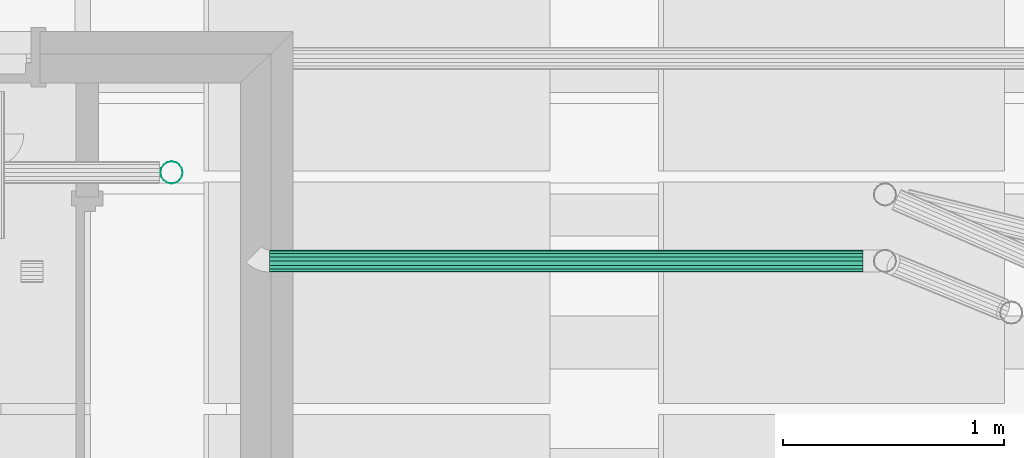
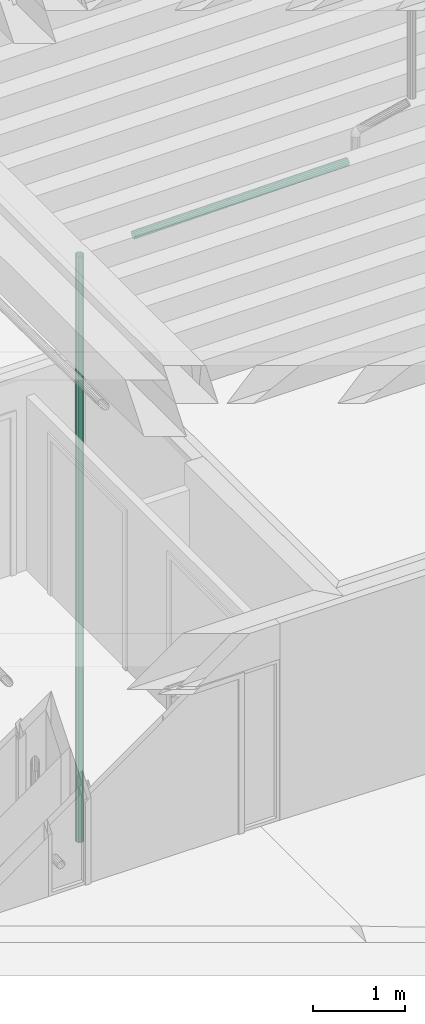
# One storey, part 64 of 106: 2 flow segments.
"""IFC2X3 building model written with IfcOpenShell, lengths in metres."""

from ifc_helpers import new_model, entity, si_unit, converted_unit, derived_unit, money_unit, direction, frame, origin_with_axes, place, context, subcontext, project, spatial, faceted_brep, material, type_object, element, save


model = new_model("IFC2X3")

# Units and contexts
model_context = context("Model", 3, precision=1e-05, world=origin_with_axes(), true_north=direction((0.0, 1.0)))
body_context = subcontext(model_context, "Body", "Model", "MODEL_VIEW", scale=1.0)
ifc_project = project(units=[si_unit("LENGTHUNIT", "METRE"), si_unit("AREAUNIT", "SQUARE_METRE"), si_unit("VOLUMEUNIT", "CUBIC_METRE"), si_unit("ABSORBEDDOSEUNIT", "GRAY"), si_unit("AMOUNTOFSUBSTANCEUNIT", "MOLE"), si_unit("DOSEEQUIVALENTUNIT", "SIEVERT"), si_unit("ELECTRICCAPACITANCEUNIT", "FARAD"), si_unit("ELECTRICCHARGEUNIT", "COULOMB"), si_unit("ELECTRICCONDUCTANCEUNIT", "SIEMENS"), si_unit("ELECTRICCURRENTUNIT", "AMPERE"), si_unit("ELECTRICRESISTANCEUNIT", "OHM"), si_unit("ELECTRICVOLTAGEUNIT", "VOLT"), si_unit("ENERGYUNIT", "JOULE"), si_unit("FORCEUNIT", "NEWTON"), si_unit("FREQUENCYUNIT", "HERTZ"), si_unit("ILLUMINANCEUNIT", "LUX"), si_unit("INDUCTANCEUNIT", "HENRY"), si_unit("LUMINOUSFLUXUNIT", "LUMEN"), si_unit("LUMINOUSINTENSITYUNIT", "CANDELA"), si_unit("MAGNETICFLUXDENSITYUNIT", "TESLA"), si_unit("MAGNETICFLUXUNIT", "WEBER"), si_unit("MASSUNIT", "GRAM"), converted_unit("PLANEANGLEUNIT", "degree", entity("IfcReal", 0.0174532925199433), si_unit("PLANEANGLEUNIT", "RADIAN"), dimensions=[0, 0, 0, 0, 0, 0, 0]), si_unit("POWERUNIT", "WATT"), si_unit("PRESSUREUNIT", "PASCAL"), si_unit("RADIOACTIVITYUNIT", "BECQUEREL"), si_unit("SOLIDANGLEUNIT", "STERADIAN"), si_unit("THERMODYNAMICTEMPERATUREUNIT", "KELVIN"), si_unit("TIMEUNIT", "SECOND"), derived_unit("ACCELERATIONUNIT", [(si_unit("LENGTHUNIT", "METRE"), 1), (si_unit("TIMEUNIT", "SECOND"), -2)]), derived_unit("ANGULARVELOCITYUNIT", [(converted_unit("PLANEANGLEUNIT", "degree", entity("IfcReal", 0.0174532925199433), si_unit("PLANEANGLEUNIT", "RADIAN"), dimensions=[0, 0, 0, 0, 0, 0, 0]), 1), (si_unit("TIMEUNIT", "SECOND"), -1)]), derived_unit("CURVATUREUNIT", [(converted_unit("PLANEANGLEUNIT", "degree", entity("IfcReal", 0.0174532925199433), si_unit("PLANEANGLEUNIT", "RADIAN"), dimensions=[0, 0, 0, 0, 0, 0, 0]), 1), (si_unit("LENGTHUNIT", "METRE"), -1)]), derived_unit("DYNAMICVISCOSITYUNIT", [(si_unit("PRESSUREUNIT", "PASCAL"), 1), (si_unit("TIMEUNIT", "SECOND"), 1)]), derived_unit("HEATFLUXDENSITYUNIT", [(si_unit("POWERUNIT", "WATT"), 1), (si_unit("LENGTHUNIT", "METRE"), -2)]), derived_unit("HEATINGVALUEUNIT", [(si_unit("ENERGYUNIT", "JOULE"), 1), (si_unit("MASSUNIT", "GRAM"), -1)]), derived_unit("INTEGERCOUNTRATEUNIT", [(si_unit("TIMEUNIT", "SECOND"), -1)]), derived_unit("IONCONCENTRATIONUNIT", [(si_unit("MASSUNIT", "GRAM"), 1), (si_unit("VOLUMEUNIT", "CUBIC_METRE"), -1)]), derived_unit("ISOTHERMALMOISTURECAPACITYUNIT", [(si_unit("VOLUMEUNIT", "CUBIC_METRE"), 1), (si_unit("MASSUNIT", "GRAM"), -1)]), derived_unit("KINEMATICVISCOSITYUNIT", [(si_unit("AREAUNIT", "SQUARE_METRE"), 1), (si_unit("TIMEUNIT", "SECOND"), -1)]), derived_unit("LINEARFORCEUNIT", [(si_unit("FORCEUNIT", "NEWTON"), 1), (si_unit("LENGTHUNIT", "METRE"), -1)]), derived_unit("LINEARMOMENTUNIT", [(si_unit("FORCEUNIT", "NEWTON"), 1), (si_unit("LENGTHUNIT", "METRE"), -1)]), derived_unit("LINEARSTIFFNESSUNIT", [(si_unit("FORCEUNIT", "NEWTON"), 1), (si_unit("LENGTHUNIT", "METRE"), -1)]), derived_unit("LINEARVELOCITYUNIT", [(si_unit("LENGTHUNIT", "METRE"), 1), (si_unit("TIMEUNIT", "SECOND"), -1)]), derived_unit("LUMINOUSINTENSITYDISTRIBUTIONUNIT", [(si_unit("LUMINOUSINTENSITYUNIT", "CANDELA"), 1), (si_unit("LUMINOUSFLUXUNIT", "LUMEN"), -1)]), derived_unit("MASSDENSITYUNIT", [(si_unit("MASSUNIT", "GRAM"), 1), (si_unit("VOLUMEUNIT", "CUBIC_METRE"), -1)]), derived_unit("MASSFLOWRATEUNIT", [(si_unit("MASSUNIT", "GRAM"), 1), (si_unit("TIMEUNIT", "SECOND"), -1)]), derived_unit("MASSPERLENGTHUNIT", [(si_unit("MASSUNIT", "GRAM"), 1), (si_unit("LENGTHUNIT", "METRE"), -1)]), derived_unit("MODULUSOFELASTICITYUNIT", [(si_unit("FORCEUNIT", "NEWTON"), 1), (si_unit("AREAUNIT", "SQUARE_METRE"), -1)]), derived_unit("MODULUSOFLINEARSUBGRADEREACTIONUNIT", [(si_unit("FORCEUNIT", "NEWTON"), 1), (si_unit("LENGTHUNIT", "METRE"), -2)]), derived_unit("MODULUSOFROTATIONALSUBGRADEREACTIONUNIT", [(si_unit("FORCEUNIT", "NEWTON"), 1), (si_unit("LENGTHUNIT", "METRE"), 1)]), derived_unit("MODULUSOFSUBGRADEREACTIONUNIT", [(si_unit("FORCEUNIT", "NEWTON"), 1), (si_unit("VOLUMEUNIT", "CUBIC_METRE"), -1)]), derived_unit("MOISTUREDIFFUSIVITYUNIT", [(si_unit("VOLUMEUNIT", "CUBIC_METRE"), 1), (si_unit("TIMEUNIT", "SECOND"), -1)]), derived_unit("MOLECULARWEIGHTUNIT", [(si_unit("MASSUNIT", "GRAM"), 1), (si_unit("AMOUNTOFSUBSTANCEUNIT", "MOLE"), -1)]), derived_unit("PLANARFORCEUNIT", [(si_unit("FORCEUNIT", "NEWTON"), 1), (si_unit("LENGTHUNIT", "METRE"), -2)]), derived_unit("ROTATIONALFREQUENCYUNIT", [(si_unit("TIMEUNIT", "SECOND"), -1)]), derived_unit("ROTATIONALMASSUNIT", [(si_unit("MASSUNIT", "GRAM"), 1), (si_unit("LENGTHUNIT", "METRE"), 2)]), derived_unit("ROTATIONALSTIFFNESSUNIT", [(si_unit("FORCEUNIT", "NEWTON"), 1), (si_unit("LENGTHUNIT", "METRE"), 1), (converted_unit("PLANEANGLEUNIT", "degree", entity("IfcReal", 0.0174532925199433), si_unit("PLANEANGLEUNIT", "RADIAN"), dimensions=[0, 0, 0, 0, 0, 0, 0]), -1)]), derived_unit("SECTIONAREAINTEGRALUNIT", [(si_unit("LENGTHUNIT", "METRE"), 5)]), derived_unit("SECTIONMODULUSUNIT", [(si_unit("LENGTHUNIT", "METRE"), 3)]), derived_unit("SHEARMODULUSUNIT", [(si_unit("FORCEUNIT", "NEWTON"), 1), (si_unit("AREAUNIT", "SQUARE_METRE"), -1)]), derived_unit("SOUNDPOWERUNIT", [(si_unit("ENERGYUNIT", "JOULE"), 1), (si_unit("TIMEUNIT", "SECOND"), -1)]), derived_unit("SPECIFICHEATCAPACITYUNIT", [(si_unit("FORCEUNIT", "NEWTON"), 1), (si_unit("MASSUNIT", "GRAM"), -1), (si_unit("THERMODYNAMICTEMPERATUREUNIT", "KELVIN"), -1)]), derived_unit("TEMPERATUREGRADIENTUNIT", [(si_unit("THERMODYNAMICTEMPERATUREUNIT", "KELVIN"), 1), (si_unit("LENGTHUNIT", "METRE"), -1)]), derived_unit("THERMALADMITTANCEUNIT", [(si_unit("POWERUNIT", "WATT"), 1), (si_unit("AREAUNIT", "SQUARE_METRE"), -1), (si_unit("THERMODYNAMICTEMPERATUREUNIT", "KELVIN"), -1)]), derived_unit("THERMALCONDUCTANCEUNIT", [(si_unit("POWERUNIT", "WATT"), 1), (si_unit("LENGTHUNIT", "METRE"), -1), (si_unit("THERMODYNAMICTEMPERATUREUNIT", "KELVIN"), -1)]), derived_unit("THERMALEXPANSIONCOEFFICIENTUNIT", [(si_unit("THERMODYNAMICTEMPERATUREUNIT", "KELVIN"), -1)]), derived_unit("THERMALRESISTANCEUNIT", [(si_unit("AREAUNIT", "SQUARE_METRE"), 1), (si_unit("POWERUNIT", "WATT"), -1)]), derived_unit("THERMALTRANSMITTANCEUNIT", [(si_unit("POWERUNIT", "WATT"), 1), (si_unit("AREAUNIT", "SQUARE_METRE"), -1), (si_unit("THERMODYNAMICTEMPERATUREUNIT", "KELVIN"), -1)]), derived_unit("TORQUEUNIT", [(si_unit("FORCEUNIT", "NEWTON"), 1), (si_unit("LENGTHUNIT", "METRE"), 1)]), derived_unit("VAPORPERMEABILITYUNIT", [(si_unit("MASSUNIT", "GRAM"), 1), (si_unit("TIMEUNIT", "SECOND"), -1)]), derived_unit("VOLUMETRICFLOWRATEUNIT", [(si_unit("VOLUMEUNIT", "CUBIC_METRE"), 1), (si_unit("TIMEUNIT", "SECOND"), -1)]), derived_unit("WARPINGCONSTANTUNIT", [(si_unit("LENGTHUNIT", "METRE"), 6)]), derived_unit("WARPINGMOMENTUNIT", [(si_unit("FORCEUNIT", "NEWTON"), 1), (si_unit("LENGTHUNIT", "METRE"), 2)]), money_unit("GBP")], contexts=[model_context])

# Site, building, storey
site_placement = place(None, origin_with_axes())
site = spatial("IfcSite", under=ifc_project, at=site_placement, Name="Site", CompositionType="ELEMENT")
building_placement = place(site_placement, origin_with_axes())
building = spatial("IfcBuilding", under=site, at=building_placement, Name="Building01", CompositionType="ELEMENT")
storey_placement = place(building_placement, origin_with_axes())
storey = spatial("IfcBuildingStorey", under=building, at=storey_placement, Name="GF", CompositionType="ELEMENT", Elevation=0.0)

# Flow segments
ifc_material = material(Name="M_BSUK_ColdWater")
pipe_segment_type = type_object("IfcPipeSegmentType", Name="M-BmpStraightpipe-DefaultPipe", PredefinedType="RIGIDSEGMENT")
flow_segment_1_placement = place(storey_placement, frame((21.977911, 8.116912, 4.65154), z_axis=(-0.01249902, 0.0, 0.99992188), x_axis=(-0.99992188, 0.0, -0.01249902)))
element("IfcFlowSegment", 1, at=flow_segment_1_placement, inside=storey, type_object=pipe_segment_type, material=ifc_material, Name="M-BmpStraightpipe-DefaultPipe", ObjectType="M-BmpStraightpipe-DefaultPipe", context=body_context, shape_type="Brep", body=[
    faceted_brep([(2.68217, 0.0, -0.05), (0.0, 0.0, -0.05), (0.0, 0.019134, -0.046194), (2.68217, 0.019134, -0.046194), (0.0, 0.035355, -0.035355), (2.68217, 0.035355, -0.035355), (0.0, 0.046194, -0.019134), (2.68217, 0.046194, -0.019134), (0.0, 0.05, 0.0), (2.68217, 0.05, 0.0), (0.0, 0.046194, 0.019134), (2.68217, 0.046194, 0.019134), (0.0, 0.035355, 0.035355), (2.68217, 0.035355, 0.035355), (0.0, 0.019134, 0.046194), (2.68217, 0.019134, 0.046194), (0.0, 0.0, 0.05), (2.68217, 0.0, 0.05), (0.0, -0.019134, 0.046194), (2.68217, -0.019134, 0.046194), (0.0, -0.035355, 0.035355), (2.68217, -0.035355, 0.035355), (0.0, -0.046194, 0.019134), (2.68217, -0.046194, 0.019134), (0.0, -0.05, 0.0), (2.68217, -0.05, 0.0), (0.0, -0.046194, -0.019134), (2.68217, -0.046194, -0.019134), (0.0, -0.035355, -0.035355), (2.68217, -0.035355, -0.035355), (0.0, -0.019134, -0.046194), (2.68217, -0.019134, -0.046194)], [[[0, 1, 2, 3]], [[3, 2, 4, 5]], [[5, 4, 6, 7]], [[7, 6, 8, 9]], [[9, 8, 10, 11]], [[11, 10, 12, 13]], [[13, 12, 14, 15]], [[15, 14, 16, 17]], [[17, 16, 18, 19]], [[19, 18, 20, 21]], [[21, 20, 22, 23]], [[23, 22, 24, 25]], [[25, 24, 26, 27]], [[27, 26, 28, 29]], [[29, 28, 30, 31]], [[31, 30, 1, 0]]]),
])
flow_segment_2_placement = place(storey_placement, frame((18.854537, 8.516912, -3.480655), z_axis=(1.0, 0.0, 0.0), x_axis=(0.0, 0.0, 1.0)))
element("IfcFlowSegment", 2, at=flow_segment_2_placement, inside=storey, type_object=pipe_segment_type, material=ifc_material, Name="M-BmpStraightpipe-DefaultPipe", ObjectType="M-BmpStraightpipe-DefaultPipe", context=body_context, shape_type="Brep", body=[
    faceted_brep([(7.759695, 0.0, -0.05), (0.0, 0.0, -0.05), (0.0, 0.019134, -0.046194), (7.759695, 0.019134, -0.046194), (0.0, 0.035355, -0.035355), (7.759695, 0.035355, -0.035355), (0.0, 0.046194, -0.019134), (7.759695, 0.046194, -0.019134), (0.0, 0.05, 0.0), (7.759695, 0.05, 0.0), (0.0, 0.046194, 0.019134), (7.759695, 0.046194, 0.019134), (0.0, 0.035355, 0.035355), (7.759695, 0.035355, 0.035355), (0.0, 0.019134, 0.046194), (7.759695, 0.019134, 0.046194), (0.0, 0.0, 0.05), (7.759695, 0.0, 0.05), (0.0, -0.019134, 0.046194), (7.759695, -0.019134, 0.046194), (0.0, -0.035355, 0.035355), (7.759695, -0.035355, 0.035355), (0.0, -0.046194, 0.019134), (7.759695, -0.046194, 0.019134), (0.0, -0.05, 0.0), (7.759695, -0.05, 0.0), (0.0, -0.046194, -0.019134), (7.759695, -0.046194, -0.019134), (0.0, -0.035355, -0.035355), (7.759695, -0.035355, -0.035355), (0.0, -0.019134, -0.046194), (7.759695, -0.019134, -0.046194)], [[[0, 1, 2, 3]], [[3, 2, 4, 5]], [[5, 4, 6, 7]], [[7, 6, 8, 9]], [[9, 8, 10, 11]], [[11, 10, 12, 13]], [[13, 12, 14, 15]], [[15, 14, 16, 17]], [[17, 16, 18, 19]], [[19, 18, 20, 21]], [[21, 20, 22, 23]], [[23, 22, 24, 25]], [[25, 24, 26, 27]], [[27, 26, 28, 29]], [[29, 28, 30, 31]], [[31, 30, 1, 0]]]),
])

save(model, "model.ifc")
